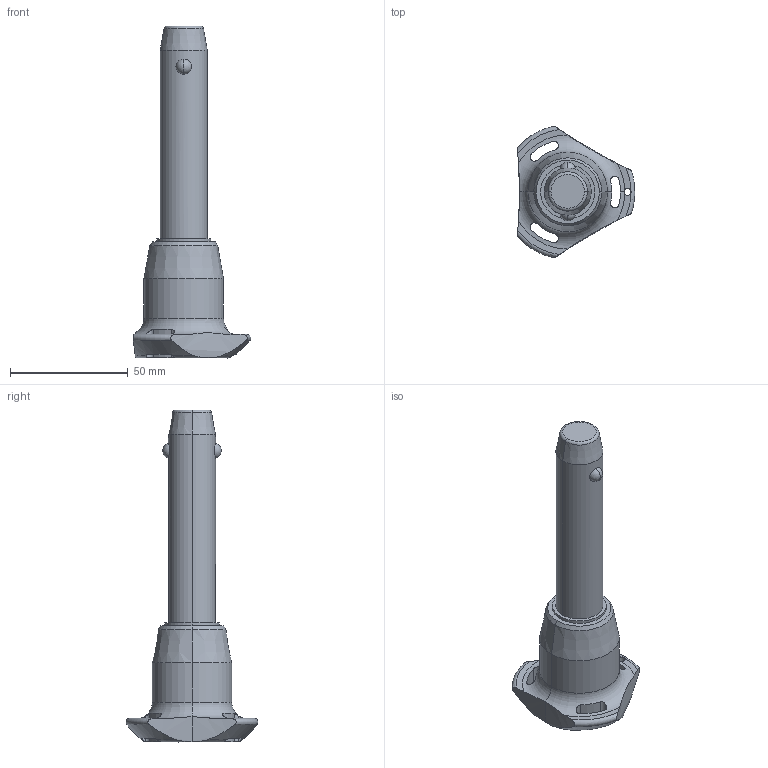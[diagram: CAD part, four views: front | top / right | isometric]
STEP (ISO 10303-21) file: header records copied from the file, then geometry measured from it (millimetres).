
FILE_DESCRIPTION (( 'STEP AP203' ), '1' );
FILE_NAME ('QR1704.M20-070-S.step', '2025-11-12T09:33:55', ( '' ), ( '' ), 'SwSTEP 2.0', 'SolidWorks 2019', '' );
FILE_SCHEMA (( 'CONFIG_CONTROL_DESIGN' ));
Length unit declared in the file: millimetre
Products named in the file (1): QR1704.M20-070-S
Bounding box: 50.04 x 56.02 x 141.2 mm (x, y, z)
Volume: 75768.1 mm3; surface area: 15365.5 mm2
Topology: 1 solids, 1 shells, 65 faces, 176 edges, 111 vertices
Faces by surface type: cylinder 30, cone 14, torus 11, sphere 6, plane 4
Entity records: 2858 total; most frequent: CARTESIAN_POINT 1179, ORIENTED_EDGE 352, DIRECTION 329, EDGE_CURVE 176, AXIS2_PLACEMENT_3D 147, VERTEX_POINT 111, CIRCLE 81, EDGE_LOOP 71
